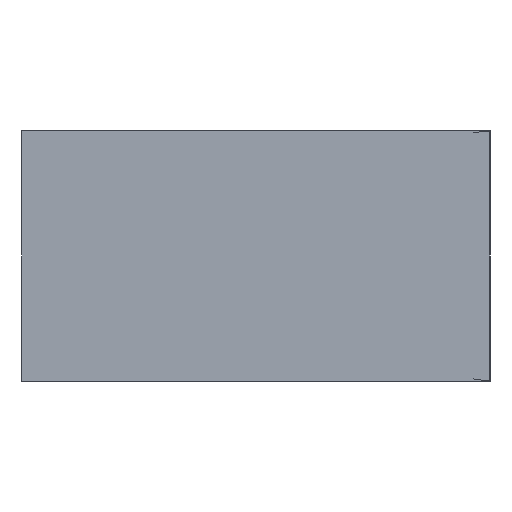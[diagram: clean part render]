
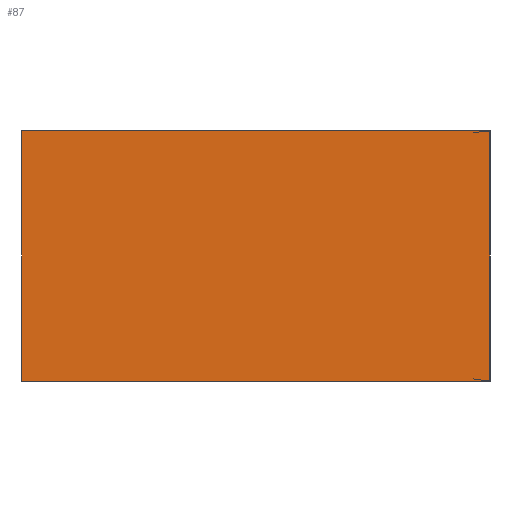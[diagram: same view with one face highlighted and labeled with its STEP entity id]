
A CAD part, left-side view. The second image highlights one B-rep face of the part: STEP entity #87.
In plain terms, the highlighted planar face has unit normal (-1, 0, 0).
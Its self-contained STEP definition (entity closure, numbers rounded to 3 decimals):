
#87 = ADVANCED_FACE( '', ( #116 ), #117, .F. );
#116 = FACE_OUTER_BOUND( '', #146, .T. );
#117 = PLANE( '', #147 );
#146 = EDGE_LOOP( '', ( #230, #231, #232, #233 ) );
#147 = AXIS2_PLACEMENT_3D( '', #234, #235, #236 );
#230 = ORIENTED_EDGE( '', *, *, #262, .F. );
#231 = ORIENTED_EDGE( '', *, *, #268, .F. );
#232 = ORIENTED_EDGE( '', *, *, #269, .F. );
#233 = ORIENTED_EDGE( '', *, *, #266, .T. );
#234 = CARTESIAN_POINT( '', ( -3.5, 0., 0. ) );
#235 = DIRECTION( '', ( 1., 0., 0. ) );
#236 = DIRECTION( '', ( 0., 0., -1. ) );
#262 = EDGE_CURVE( '', #299, #301, #302, .T. );
#266 = EDGE_CURVE( '', #306, #301, #307, .T. );
#268 = EDGE_CURVE( '', #308, #299, #310, .T. );
#269 = EDGE_CURVE( '', #306, #308, #311, .T. );
#299 = VERTEX_POINT( '', #348 );
#301 = VERTEX_POINT( '', #351 );
#302 = LINE( '', #352, #353 );
#306 = VERTEX_POINT( '', #359 );
#307 = LINE( '', #360, #361 );
#308 = VERTEX_POINT( '', #362 );
#310 = LINE( '', #364, #365 );
#311 = LINE( '', #366, #367 );
#348 = CARTESIAN_POINT( '', ( -3.5, -29., 7.75 ) );
#351 = CARTESIAN_POINT( '', ( -3.5, -29., -7.75 ) );
#352 = CARTESIAN_POINT( '', ( -3.5, -29., 7.75 ) );
#353 = VECTOR( '', #406, 1. );
#359 = CARTESIAN_POINT( '', ( -3.5, 0., -7.75 ) );
#360 = CARTESIAN_POINT( '', ( -3.5, 0., -7.75 ) );
#361 = VECTOR( '', #412, 1. );
#362 = CARTESIAN_POINT( '', ( -3.5, 0., 7.75 ) );
#364 = CARTESIAN_POINT( '', ( -3.5, 0., 7.75 ) );
#365 = VECTOR( '', #416, 1. );
#366 = CARTESIAN_POINT( '', ( -3.5, 0., -7.75 ) );
#367 = VECTOR( '', #417, 1. );
#406 = DIRECTION( '', ( 0., 0., -1. ) );
#412 = DIRECTION( '', ( 0., -1., 0. ) );
#416 = DIRECTION( '', ( 0., -1., 0. ) );
#417 = DIRECTION( '', ( 0., 0., 1. ) );
